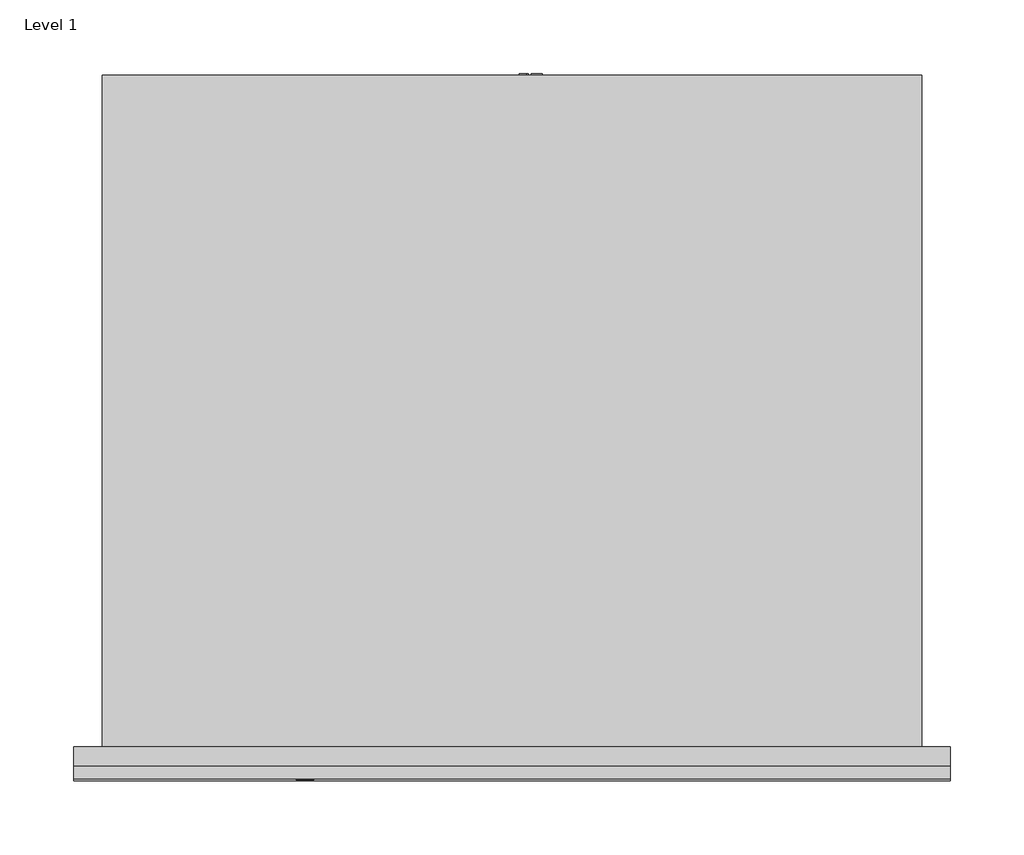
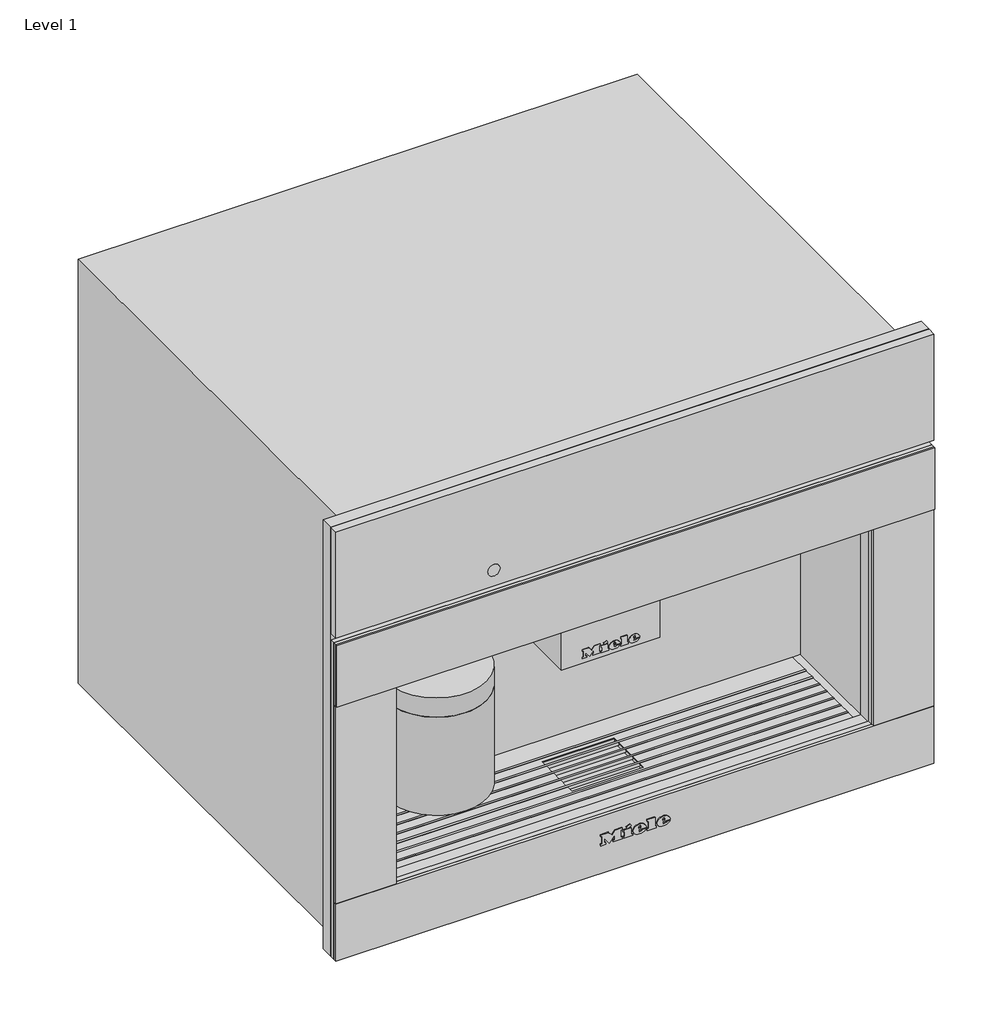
# One storey: 1 proxy.
"""IFC4 building model written with IfcOpenShell, lengths in millimetres."""

from ifc_helpers import new_model, si_unit, origin, place, context, project, spatial, transform, mapped, element, save
from components import specialty_equipment_fd1400ea

model = new_model("IFC4")

# Units and contexts
model_context = context("Model", 3, world=origin())
ifc_project = project(units=[si_unit("LENGTHUNIT", "METRE", prefix="MILLI")], contexts=[model_context])

# Site, building, storey
site = spatial("IfcSite", under=ifc_project)
building = spatial("IfcBuilding", under=site)
storey = spatial("IfcBuildingStorey", under=building, Name="Level 1", Elevation=0.0)

# Proxy
placement = place(None, origin())
specialty_equipment_shape = specialty_equipment_fd1400ea(model_context)
element("IfcBuildingElementProxy", 1, Name="11165770_RU_CVA7840_EDST-CLST : 29784040_RU_11165770_CVA7840_EDST-CLST", ObjectType="11165770_RU_CVA7840_EDST-CLST : 29784040_RU_11165770_CVA7840_EDST-CLST", at=placement, inside=storey, context=model_context, shape_type="MappedRepresentation", body=[
    mapped(specialty_equipment_shape, transform((0.0, 0.0, 0.0), x_axis=(1.0, 0.0, 0.0), y_axis=(0.0, 1.0, 0.0), z_axis=(0.0, 0.0, 1.0))),
])

save(model, "model.ifc")
